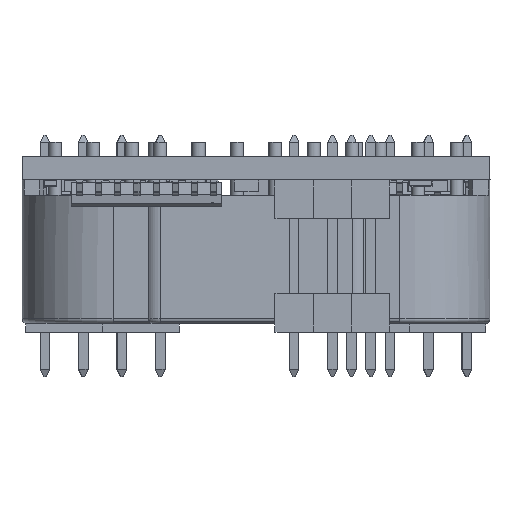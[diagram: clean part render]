
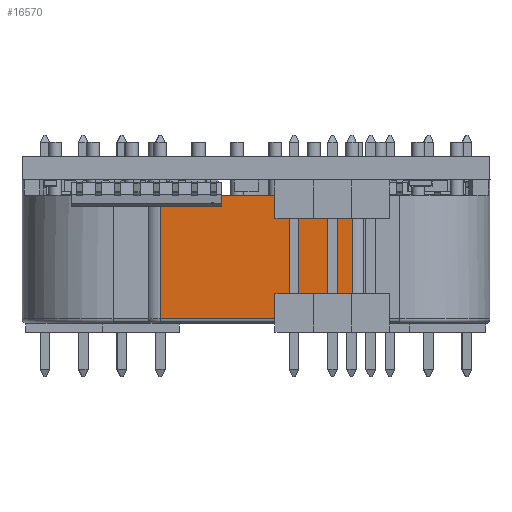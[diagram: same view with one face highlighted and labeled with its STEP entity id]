
A CAD part, left-side view. The second image highlights one B-rep face of the part: STEP entity #16570.
In plain terms, the highlighted planar face has unit normal (-1, -0.003, 0) as drawn and (0, -1, 0) by its records, which use the part's own axes.
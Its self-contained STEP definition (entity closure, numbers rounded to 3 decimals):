
#4436=VERTEX_POINT('',#25693);
#4437=VERTEX_POINT('',#25695);
#4511=VERTEX_POINT('',#25898);
#4513=VERTEX_POINT('',#25918);
#5878=VECTOR('',#20979,1.);
#5918=VECTOR('',#21153,1.);
#5937=VECTOR('',#21307,1.);
#5938=VECTOR('',#21309,1.);
#7448=LINE('',#25694,#5878);
#7488=LINE('',#25937,#5918);
#7507=LINE('',#26055,#5937);
#7508=LINE('',#26057,#5938);
#9390=EDGE_CURVE('',#4437,#4436,#7448,.T.);
#9482=EDGE_CURVE('',#4513,#4511,#7488,.T.);
#9546=EDGE_CURVE('',#4436,#4511,#7507,.T.);
#9547=EDGE_CURVE('',#4437,#4513,#7508,.T.);
#13091=ORIENTED_EDGE('',*,*,#9482,.F.);
#13092=ORIENTED_EDGE('',*,*,#9547,.F.);
#13093=ORIENTED_EDGE('',*,*,#9390,.T.);
#13094=ORIENTED_EDGE('',*,*,#9546,.T.);
#14818=EDGE_LOOP('',(#13091,#13092,#13093,#13094));
#15736=FACE_BOUND('',#14818,.T.);
#16570=ADVANCED_FACE('',(#15736),#27715,.T.);
#17903=AXIS2_PLACEMENT_3D('',#26056,#21308,$);
#20979=DIRECTION('',(-1.,0.,0.));
#21153=DIRECTION('',(-1.,0.,0.));
#21307=DIRECTION('',(0.,0.,-1.));
#21308=DIRECTION('',(0.,-1.,0.));
#21309=DIRECTION('',(0.,0.,-1.));
#25693=CARTESIAN_POINT('',(202.927,155.663,7.5));
#25694=CARTESIAN_POINT('',(202.927,155.663,7.5));
#25695=CARTESIAN_POINT('',(215.627,155.663,7.5));
#25898=CARTESIAN_POINT('',(202.927,155.663,-0.7));
#25918=CARTESIAN_POINT('',(215.627,155.663,-0.7));
#25937=CARTESIAN_POINT('',(209.277,155.663,-0.7));
#26055=CARTESIAN_POINT('',(202.927,155.663,0.));
#26056=CARTESIAN_POINT('',(209.277,155.663,0.));
#26057=CARTESIAN_POINT('',(215.627,155.663,0.));
#27715=PLANE('',#17903);
